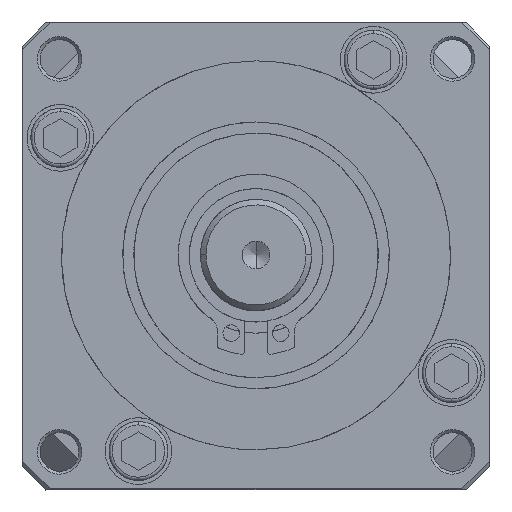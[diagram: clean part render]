
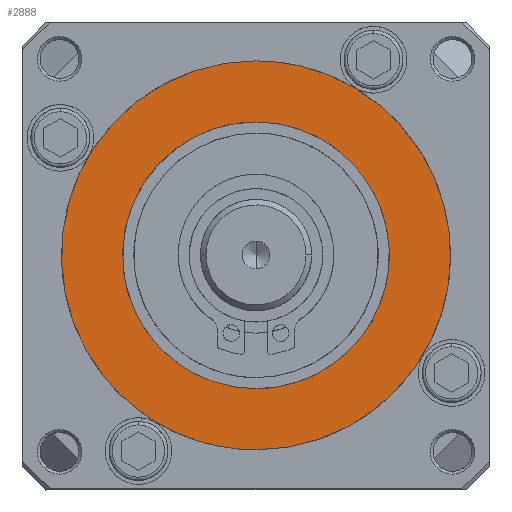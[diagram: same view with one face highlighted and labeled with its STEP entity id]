
A CAD part, top view. The second image highlights one B-rep face of the part: STEP entity #2888.
In plain terms, the highlighted free-form (B-spline) face has degree [1, 1] with [2, 2] control points.
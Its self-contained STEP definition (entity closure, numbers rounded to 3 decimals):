
#279 = CARTESIAN_POINT ( 'NONE',  ( -17.71, 14.887, 17.71 ) ) ;
#610 = ORIENTED_EDGE ( 'NONE', *, *, #10102, .F. ) ;
#988 = CARTESIAN_POINT ( 'NONE',  ( 0., 14.887, -12. ) ) ;
#1311 = CARTESIAN_POINT ( 'NONE',  ( 10.251, 14.887, 17.5 ) ) ;
#1352 = ORIENTED_EDGE ( 'NONE', *, *, #10665, .F. ) ;
#1427 = CARTESIAN_POINT ( 'NONE',  ( 7.029, 14.887, 12. ) ) ;
#1816 = CARTESIAN_POINT ( 'NONE',  ( -35., 14.887, 17.5 ) ) ;
#2005 = B_SPLINE_SURFACE_WITH_KNOTS ( 'NONE', 1, 1, ( 
 ( #7161, #12707 ),
 ( #279, #5795 ) ),
 .UNSPECIFIED., .F., .F., .F.,
 ( 2, 2 ),
 ( 2, 2 ),
 ( 0., 1. ),
 ( 0., 1. ),
 .UNSPECIFIED. ) ;
#2330 = CARTESIAN_POINT ( 'NONE',  ( 0., 14.887, 12. ) ) ;
#2791 = CARTESIAN_POINT ( 'NONE',  ( 12., 14.887, -7.029 ) ) ;
#2888 = ADVANCED_FACE ( 'NONE', ( #8522, #14076 ), #2005, .F. ) ;
#5473 = CARTESIAN_POINT ( 'NONE',  ( 10.251, 14.887, -17.5 ) ) ;
#5795 = CARTESIAN_POINT ( 'NONE',  ( 17.71, 14.887, 17.71 ) ) ;
#6454 = VERTEX_POINT ( 'NONE', #17922 ) ;
#6848 = CARTESIAN_POINT ( 'NONE',  ( 17.5, 14.887, 10.251 ) ) ;
#6957 = CARTESIAN_POINT ( 'NONE',  ( 0., 14.887, 12. ) ) ;
#7119 = CARTESIAN_POINT ( 'NONE',  ( 0., 14.887, 17.5 ) ) ;
#7161 = CARTESIAN_POINT ( 'NONE',  ( -17.71, 14.887, -17.71 ) ) ;
#7353 = CARTESIAN_POINT ( 'NONE',  ( 0., 14.887, 17.5 ) ) ;
#7465 =( BOUNDED_CURVE ( )  B_SPLINE_CURVE ( 3, ( #9686, #15249, #2791, #8316, #13879, #1427, #6957 ),
 .UNSPECIFIED., .F., .T. ) 
 B_SPLINE_CURVE_WITH_KNOTS ( ( 4, 3, 4 ),
 ( -3.142, -1.571, 0. ),
 .UNSPECIFIED. ) 
 CURVE ( )  GEOMETRIC_REPRESENTATION_ITEM ( )  RATIONAL_B_SPLINE_CURVE ( ( 1., 0.805, 0.805, 1., 0.805, 0.805, 1. ) ) 
 REPRESENTATION_ITEM ( '' )  );
#7868 = CARTESIAN_POINT ( 'NONE',  ( -24., 14.887, 12. ) ) ;
#7882 =( BOUNDED_CURVE ( )  B_SPLINE_CURVE ( 3, ( #8717, #14274, #1816, #7353 ),
 .UNSPECIFIED., .F., .F. ) 
 B_SPLINE_CURVE_WITH_KNOTS ( ( 4, 4 ),
 ( -3.142, 0. ),
 .UNSPECIFIED. ) 
 CURVE ( )  GEOMETRIC_REPRESENTATION_ITEM ( )  RATIONAL_B_SPLINE_CURVE ( ( 1., 0.333, 0.333, 1. ) ) 
 REPRESENTATION_ITEM ( '' )  );
#8316 = CARTESIAN_POINT ( 'NONE',  ( 12., 14.887, 0. ) ) ;
#8426 = EDGE_CURVE ( 'NONE', #12000, #15760, #16108, .T. ) ;
#8522 = FACE_BOUND ( 'NONE', #15371, .T. ) ;
#8717 = CARTESIAN_POINT ( 'NONE',  ( 0., 14.887, -17.5 ) ) ;
#8805 = ORIENTED_EDGE ( 'NONE', *, *, #8426, .F. ) ;
#9686 = CARTESIAN_POINT ( 'NONE',  ( 0., 14.887, -12. ) ) ;
#9963 = CARTESIAN_POINT ( 'NONE',  ( 0., 14.887, -17.5 ) ) ;
#10102 = EDGE_CURVE ( 'NONE', #15760, #12000, #7882, .T. ) ;
#10665 = EDGE_CURVE ( 'NONE', #6454, #14402, #17751, .T. ) ;
#10929 = CARTESIAN_POINT ( 'NONE',  ( 0., 14.887, -12. ) ) ;
#11021 = CARTESIAN_POINT ( 'NONE',  ( 0., 14.887, -17.5 ) ) ;
#12000 = VERTEX_POINT ( 'NONE', #7119 ) ;
#12399 = CARTESIAN_POINT ( 'NONE',  ( 17.5, 14.887, 0. ) ) ;
#12707 = CARTESIAN_POINT ( 'NONE',  ( 17.71, 14.887, -17.71 ) ) ;
#13418 = CARTESIAN_POINT ( 'NONE',  ( -24., 14.887, -12. ) ) ;
#13763 = CARTESIAN_POINT ( 'NONE',  ( 0., 14.887, 17.5 ) ) ;
#13857 = EDGE_CURVE ( 'NONE', #14402, #6454, #7465, .T. ) ;
#13879 = CARTESIAN_POINT ( 'NONE',  ( 12., 14.887, 7.029 ) ) ;
#14076 = FACE_OUTER_BOUND ( 'NONE', #17879, .T. ) ;
#14274 = CARTESIAN_POINT ( 'NONE',  ( -35., 14.887, -17.5 ) ) ;
#14402 = VERTEX_POINT ( 'NONE', #10929 ) ;
#15249 = CARTESIAN_POINT ( 'NONE',  ( 7.029, 14.887, -12. ) ) ;
#15371 = EDGE_LOOP ( 'NONE', ( #16286, #1352 ) ) ;
#15760 = VERTEX_POINT ( 'NONE', #9963 ) ;
#16108 =( BOUNDED_CURVE ( )  B_SPLINE_CURVE ( 3, ( #13763, #1311, #6848, #12399, #17907, #5473, #11021 ),
 .UNSPECIFIED., .F., .F. ) 
 B_SPLINE_CURVE_WITH_KNOTS ( ( 4, 3, 4 ),
 ( -3.142, -1.571, 0. ),
 .UNSPECIFIED. ) 
 CURVE ( )  GEOMETRIC_REPRESENTATION_ITEM ( )  RATIONAL_B_SPLINE_CURVE ( ( 1., 0.805, 0.805, 1., 0.805, 0.805, 1. ) ) 
 REPRESENTATION_ITEM ( '' )  );
#16286 = ORIENTED_EDGE ( 'NONE', *, *, #13857, .F. ) ;
#17751 =( BOUNDED_CURVE ( )  B_SPLINE_CURVE ( 3, ( #2330, #7868, #13418, #988 ),
 .UNSPECIFIED., .F., .F. ) 
 B_SPLINE_CURVE_WITH_KNOTS ( ( 4, 4 ),
 ( -3.142, 0. ),
 .UNSPECIFIED. ) 
 CURVE ( )  GEOMETRIC_REPRESENTATION_ITEM ( )  RATIONAL_B_SPLINE_CURVE ( ( 1., 0.333, 0.333, 1. ) ) 
 REPRESENTATION_ITEM ( '' )  );
#17879 = EDGE_LOOP ( 'NONE', ( #610, #8805 ) ) ;
#17907 = CARTESIAN_POINT ( 'NONE',  ( 17.5, 14.887, -10.251 ) ) ;
#17922 = CARTESIAN_POINT ( 'NONE',  ( 0., 14.887, 12. ) ) ;
